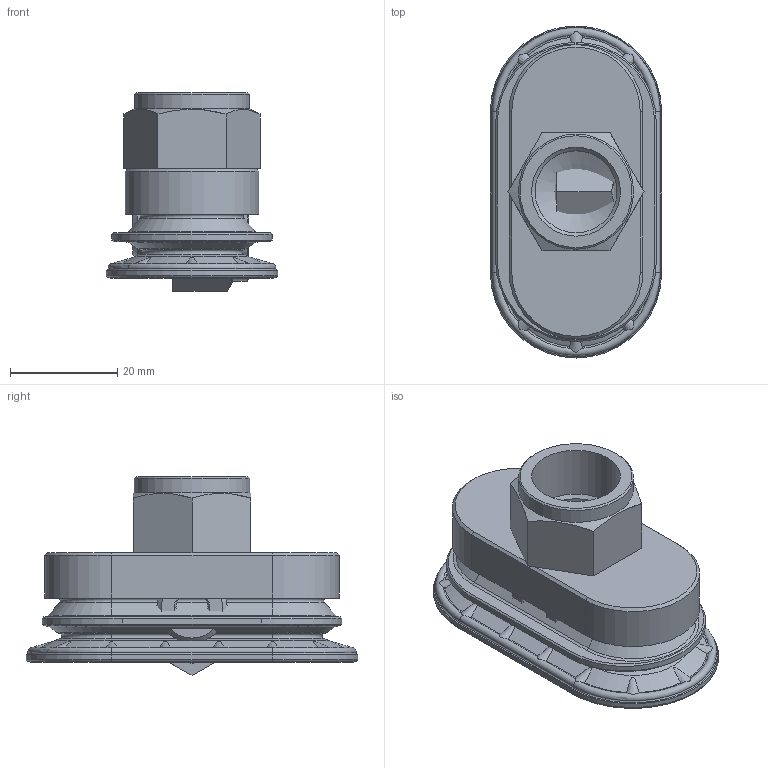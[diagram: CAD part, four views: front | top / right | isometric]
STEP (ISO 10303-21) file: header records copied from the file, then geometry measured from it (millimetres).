
FILE_DESCRIPTION( ( 'Unknown' ), '1' );
FILE_NAME( 'C:/Documents and Settings/Owner/官帕 拳搁/货 弃歹 (2)/VOBF30X60-38F.stp', 'Unknown', ( 'Unknown' ), ( 'Unknown' ), 'PSStep 10.0', 'Unknown', ' ' );
FILE_SCHEMA( ( 'AUTOMOTIVE_DESIGN { 1 0 10303 214 1 1 1 1 }' ) );
Length unit declared in the file: millimetre
Products named in the file (3): Assem1; VOBF 30x60_譆; VOBF 38F
Bounding box: 32 x 62 x 37.15 mm (x, y, z)
Surface area: 26050.4 mm2 (no closed solid volume)
Topology: 0 solids, 1432 shells, 1432 faces, 7172 edges, 7120 vertices
Faces by surface type: plane 820, cylinder 352, cone 208, torus 52
Full cylindrical faces by diameter (mm): 4.5 x4, 6 x2, 7 x4, 11.44 x2, 11.445 x2, 13.15 x2, 15 x2, 15.3 x2, 16.6 x2, 17 x2, 19 x2, 21.5 x2
Entity records: 44596 total; most frequent: CARTESIAN_POINT 13205, DIRECTION 4920, ORIENTED_EDGE 3556, EDGE_CURVE 3556, VERTEX_POINT 3556, LINE 1938, VECTOR 1938, AXIS2_PLACEMENT_3D 1491
